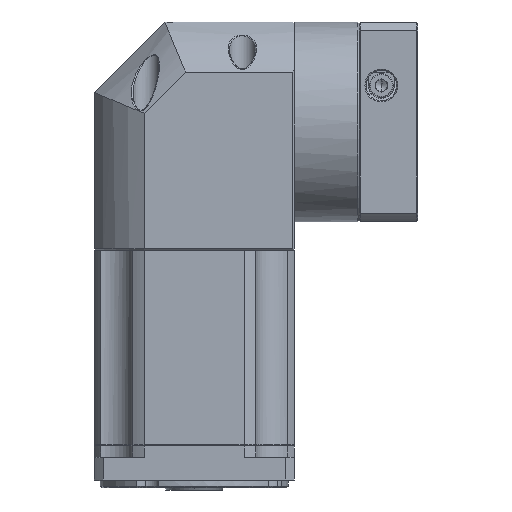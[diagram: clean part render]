
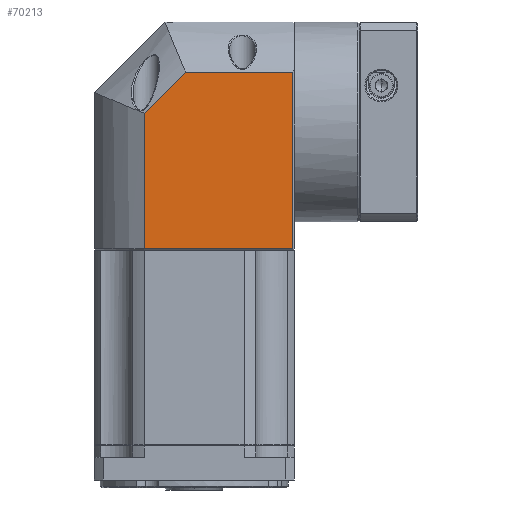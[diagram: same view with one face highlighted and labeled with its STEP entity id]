
A CAD part, front view. The second image highlights one B-rep face of the part: STEP entity #70213.
In plain terms, the highlighted planar face has unit normal (0, -1, 0).
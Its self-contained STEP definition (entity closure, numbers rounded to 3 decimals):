
#6438 = VECTOR ( 'NONE', #84995, 1000. ) ;
#10408 = DIRECTION ( 'NONE',  ( 0., 0., 1. ) ) ;
#16674 = ORIENTED_EDGE ( 'NONE', *, *, #109395, .F. ) ;
#21727 = CARTESIAN_POINT ( 'NONE',  ( 55.841, 105.885, -45.14 ) ) ;
#24006 = LINE ( 'NONE', #150021, #124218 ) ;
#33908 = CARTESIAN_POINT ( 'NONE',  ( 56.341, 105.885, 51.36 ) ) ;
#35604 = LINE ( 'NONE', #57889, #96878 ) ;
#36863 = EDGE_CURVE ( 'NONE', #47247, #114315, #41138, .T. ) ;
#37948 = FACE_OUTER_BOUND ( 'NONE', #131627, .T. ) ;
#41138 = LINE ( 'NONE', #71923, #6438 ) ;
#45426 = DIRECTION ( 'NONE',  ( 0., 0., -1. ) ) ;
#46478 = PLANE ( 'NONE',  #114546 ) ;
#47031 = DIRECTION ( 'NONE',  ( -1., 0., 0. ) ) ;
#47247 = VERTEX_POINT ( 'NONE', #165964 ) ;
#48861 = EDGE_CURVE ( 'NONE', #47247, #56066, #52333, .T. ) ;
#51926 = ORIENTED_EDGE ( 'NONE', *, *, #96923, .F. ) ;
#52333 = LINE ( 'NONE', #153743, #152507 ) ;
#56066 = VERTEX_POINT ( 'NONE', #141405 ) ;
#57360 = CARTESIAN_POINT ( 'NONE',  ( -7.372, 105.885, 12.543 ) ) ;
#57889 = CARTESIAN_POINT ( 'NONE',  ( 55.841, 105.885, 51.36 ) ) ;
#59664 = VERTEX_POINT ( 'NONE', #148713 ) ;
#70213 = ADVANCED_FACE ( 'NONE', ( #37948 ), #46478, .F. ) ;
#70586 = DIRECTION ( 'NONE',  ( 0.707, 0., 0.707 ) ) ;
#71923 = CARTESIAN_POINT ( 'NONE',  ( 56.341, 105.885, -45.14 ) ) ;
#84634 = ORIENTED_EDGE ( 'NONE', *, *, #115585, .F. ) ;
#84995 = DIRECTION ( 'NONE',  ( 1., 0., 0. ) ) ;
#86000 = VECTOR ( 'NONE', #70586, 1000. ) ;
#96878 = VECTOR ( 'NONE', #45426, 1000. ) ;
#96923 = EDGE_CURVE ( 'NONE', #56066, #116418, #120850, .T. ) ;
#105988 = CARTESIAN_POINT ( 'NONE',  ( 10.158, 105.885, 30.073 ) ) ;
#109395 = EDGE_CURVE ( 'NONE', #116418, #59664, #24006, .T. ) ;
#114315 = VERTEX_POINT ( 'NONE', #21727 ) ;
#114546 = AXIS2_PLACEMENT_3D ( 'NONE', #33908, #125340, #47031 ) ;
#115585 = EDGE_CURVE ( 'NONE', #59664, #114315, #35604, .T. ) ;
#116418 = VERTEX_POINT ( 'NONE', #105988 ) ;
#120850 = LINE ( 'NONE', #57360, #86000 ) ;
#124218 = VECTOR ( 'NONE', #163170, 1000. ) ;
#125340 = DIRECTION ( 'NONE',  ( 0., 1., 0. ) ) ;
#128372 = ORIENTED_EDGE ( 'NONE', *, *, #36863, .T. ) ;
#131627 = EDGE_LOOP ( 'NONE', ( #128372, #84634, #16674, #51926, #159573 ) ) ;
#141405 = CARTESIAN_POINT ( 'NONE',  ( -7.372, 105.885, 12.543 ) ) ;
#148713 = CARTESIAN_POINT ( 'NONE',  ( 55.841, 105.885, 30.073 ) ) ;
#150021 = CARTESIAN_POINT ( 'NONE',  ( 56.341, 105.885, 30.073 ) ) ;
#152507 = VECTOR ( 'NONE', #10408, 1000. ) ;
#153743 = CARTESIAN_POINT ( 'NONE',  ( -7.372, 105.885, 51.36 ) ) ;
#159573 = ORIENTED_EDGE ( 'NONE', *, *, #48861, .F. ) ;
#163170 = DIRECTION ( 'NONE',  ( 1., 0., 0. ) ) ;
#165964 = CARTESIAN_POINT ( 'NONE',  ( -7.372, 105.885, -45.14 ) ) ;
